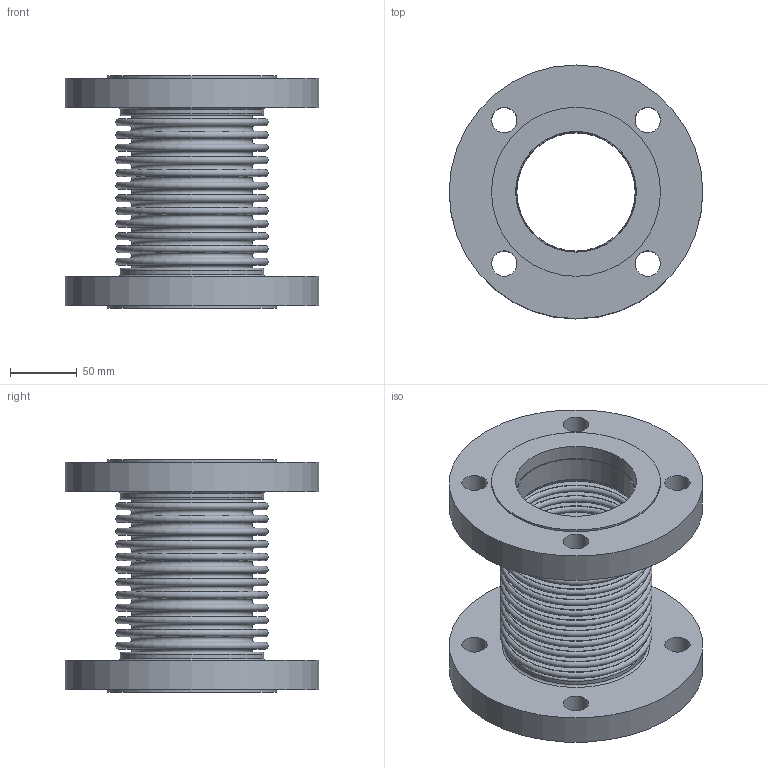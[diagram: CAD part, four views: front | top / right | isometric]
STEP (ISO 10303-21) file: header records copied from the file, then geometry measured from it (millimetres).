
FILE_DESCRIPTION(/* description */ ('EXPANSION JOINT,SINGLE, FLANGED ENDS,3 INCH NOMINAL','CAx-IF Rec.Pracs.---Representation and Presentation of Product Manufacturing Information (PMI)---4.0---2014-10-13'),/* implementation_level */ '2;1');
FILE_NAME(/* name */ 'US-03-12-85L-FLANGED ENDS.stp',/* time_stamp */ '2026-07-31T16:46:18-05:00',/* author */ ('Guadalupe'),/* organization */ (''),/* preprocessor_version */ 'ST-DEVELOPER v20.1',/* originating_system */ 'Autodesk Inventor 2026',/* authorisation */ '');
FILE_SCHEMA (('AP242_MANAGED_MODEL_BASED_3D_ENGINEERING_MIM_LF { 1 0 10303 442 2 1 4 }'));
Length unit declared in the file: inch
Products named in the file (3): 03-85L; 03-85L-02; 03-85L-01
Assembly tree (3 placements, depth 2):
  03-85L
    03-85L-02  x2
    03-85L-01
Bounding box: 190.5 x 190.5 x 174.24 mm (x, y, z)
Volume: 1061972.5 mm3; surface area: 391953.7 mm2
Topology: 5 solids, 5 shells, 136 faces, 222 edges, 148 vertices
Faces by surface type: plane 62, torus 54, cylinder 20
Full cylindrical faces by diameter (mm): 19.05 x8, 88.9 x2, 90.119 x2, 90.678 x2, 107.95 x2, 127 x2, 190.5 x2
Entity records: 3138 total; most frequent: DIRECTION 654, CARTESIAN_POINT 465, ORIENTED_EDGE 384, AXIS2_PLACEMENT_3D 321, EDGE_CURVE 192, EDGE_LOOP 188, CIRCLE 180, VERTEX_POINT 128
